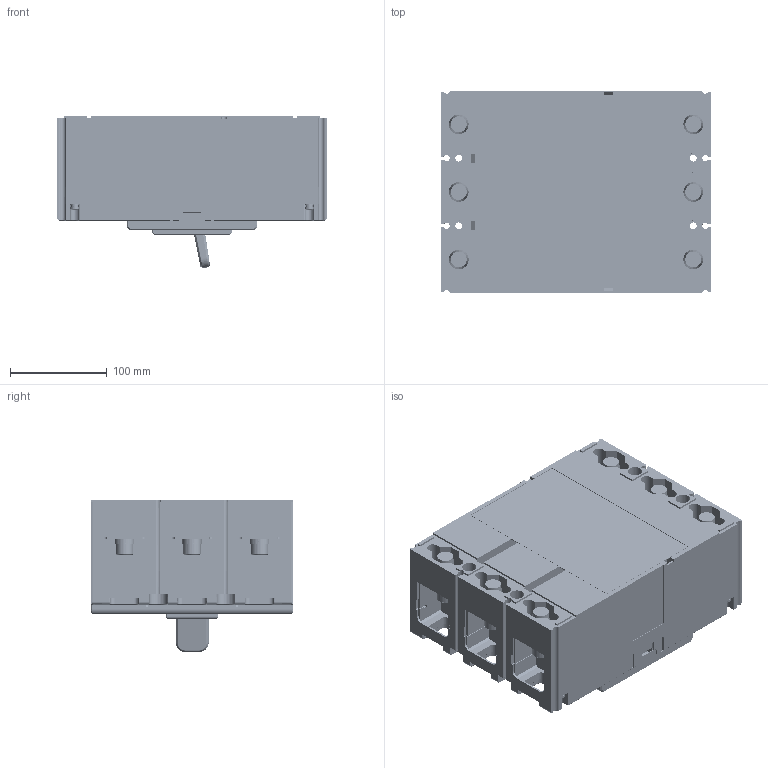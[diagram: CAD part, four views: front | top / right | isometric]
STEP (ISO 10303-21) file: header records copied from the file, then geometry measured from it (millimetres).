
FILE_DESCRIPTION((''),'2;1');
FILE_NAME('CDM3V-800-3P_ASM','2021-06-17T',('guobiao.he'),(''),'PRO/ENGINEER BY PARAMETRIC TECHNOLOGY CORPORATION, 2015440','PRO/ENGINEER BY PARAMETRIC TECHNOLOGY CORPORATION, 2015440','');
FILE_SCHEMA(('CONFIG_CONTROL_DESIGN'));
Products named in the file (39): JIZUO_5024040100_4; GB_T809-M5X16_15; 5024040100_ASM_4_ASM; 8551039600_7; 8550089700_4; 5551111200_ASM_12_ASM; 5551111100_ASM_2_ASM; 8585075200_6; 5551101900_ASM_11_ASM; 5551102000_ASM_14_ASM; 5551102100_ASM_10_ASM; 5295007400_ASM_22_ASM; 8742116100_5; 8742116200_9; 8750038200_4; 8253076300_12; 5253028700_ASM_2_ASM; 8315049600_51; GB_T809-M3X8_15; 5315049600_ASM_35_ASM; 8253076400_23; 8282201200_AF0_1; 5315050200_ASM_16_ASM; GB_T823-M5X35_5; 7090300501K_GB_T93_5_5; GB_T97_4_5_6; 5850007400_ASM_1_ASM; 8742116700_1; 8315095500_45; GB_T70_1-M12X35_2; GB_T9074_26-12_2; GB_T97_4_12_6; 5850010000_ASM_2_ASM; 7010100305R01_GB_T823_M3X10_5; 7090300201_GB_T93_3_5; GB_T97_4_3_6; 5850007700_ASM_2_ASM; 2253024300_ASM_48_ASM; CDM3V-800-3P_ASM
Assembly tree (81 placements, depth 7):
  CDM3V-800-3P_ASM
    2253024300_ASM_48_ASM
      5295007400_ASM_22_ASM
        5024040100_ASM_4_ASM
          JIZUO_5024040100_4
          GB_T809-M5X16_15  x10
        5551111100_ASM_2_ASM  x3
          5551111200_ASM_12_ASM
            8551039600_7
            8550089700_4
        5551102100_ASM_10_ASM
          5551102000_ASM_14_ASM  x3
            5551101900_ASM_11_ASM
              8585075200_6
      8742116100_5  x3
      8742116200_9  x3
      8750038200_4
      5253028700_ASM_2_ASM
        8253076300_12
      5315050200_ASM_16_ASM
        5315049600_ASM_35_ASM
          8315049600_51
          GB_T809-M3X8_15  x7
        8253076400_23
        8282201200_AF0_1
      5850007400_ASM_1_ASM  x10
        GB_T823-M5X35_5
        7090300501K_GB_T93_5_5
        GB_T97_4_5_6
      8742116700_1
      8315095500_45
      5850010000_ASM_2_ASM  x6
        GB_T70_1-M12X35_2
        GB_T9074_26-12_2
        GB_T97_4_12_6
      5850007700_ASM_2_ASM  x7
        7010100305R01_GB_T823_M3X10_5
        7090300201_GB_T93_3_5
        GB_T97_4_3_6
Bounding box: 280 x 210 x 157.78 mm (x, y, z)
Volume: 2517153.1 mm3; surface area: 993341.8 mm2
Topology: 109 solids, 109 shells, 8189 faces, 21959 edges, 14245 vertices
Faces by surface type: plane 5366, cylinder 1802, extrusion 304, cone 246, torus 209, bspline 177, sphere 85
Entity records: 230386 total; most frequent: CARTESIAN_POINT 61343, ORIENTED_EDGE 36262, DIRECTION 33092, EDGE_CURVE 18131, VECTOR 13888, LINE 13584, VERTEX_POINT 11858, AXIS2_PLACEMENT_3D 9602
